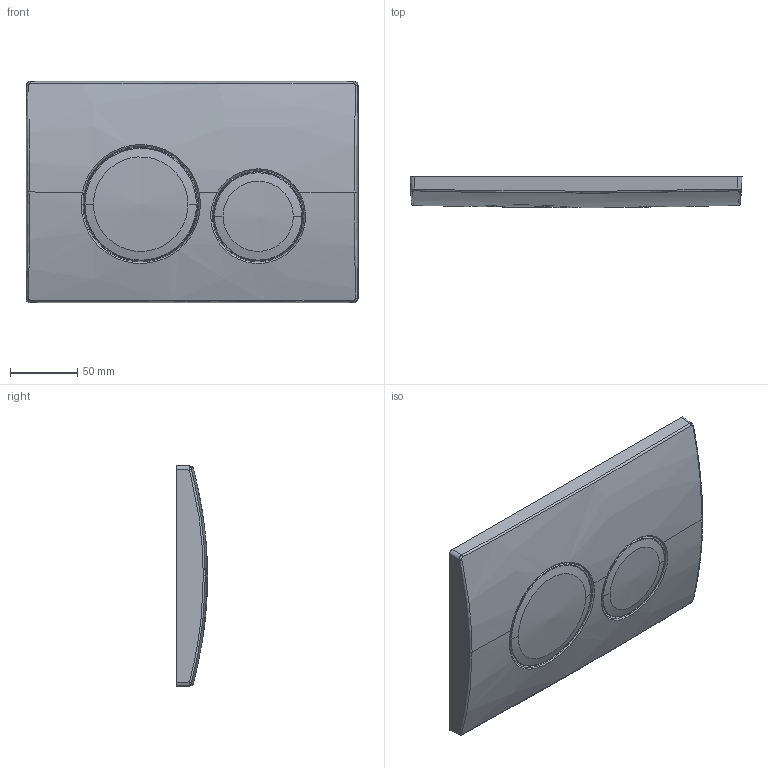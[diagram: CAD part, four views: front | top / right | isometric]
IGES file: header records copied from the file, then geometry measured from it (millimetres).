
Global section: file name: 115127; native system: Autodesk Inventor 2018; preprocessor: unknown; author: JANAN; date: 20211008.092711; units: millimetre
Bounding box: 246 x 23 x 164 mm (x, y, z)
Volume: 653170.8 mm3; surface area: 105635.3 mm2
Topology: 3 solids, 3 shells, 49 faces, 154 edges, 109 vertices
Faces by surface type: bspline 49
